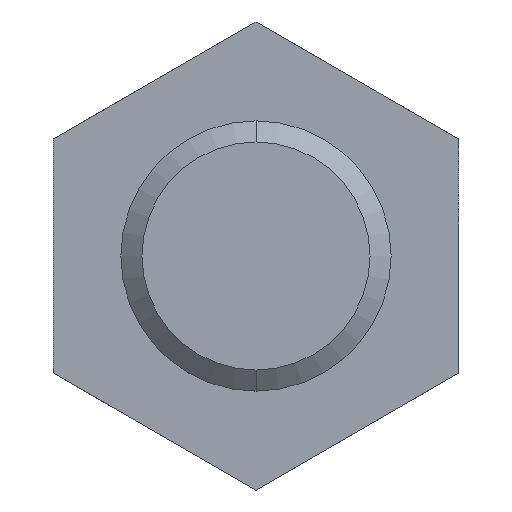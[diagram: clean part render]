
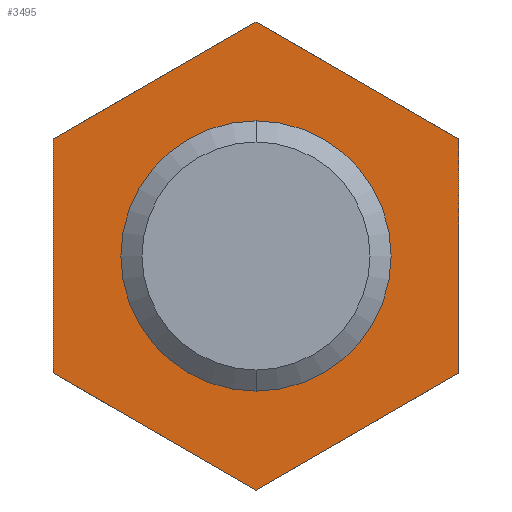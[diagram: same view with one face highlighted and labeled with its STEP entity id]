
A CAD part, front view. The second image highlights one B-rep face of the part: STEP entity #3495.
In plain terms, the highlighted planar face has unit normal (0, -1, 0).
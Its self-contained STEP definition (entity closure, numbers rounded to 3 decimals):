
#2574 = DIRECTION ( 'NONE',  ( 0., 0., -1. ) ) ;
#2575 = VECTOR ( 'NONE', #2574, 1000. ) ;
#2576 = CARTESIAN_POINT ( 'NONE',  ( -12., 50., 6.928 ) ) ;
#2581 = LINE ( 'NONE', #2576, #2575 ) ;
#2619 = DIRECTION ( 'NONE',  ( 0.866, 0., 0.5 ) ) ;
#2620 = VECTOR ( 'NONE', #2619, 1000. ) ;
#2621 = CARTESIAN_POINT ( 'NONE',  ( 0., 50., -13.856 ) ) ;
#2622 = LINE ( 'NONE', #2621, #2620 ) ;
#2623 = CARTESIAN_POINT ( 'NONE',  ( 12., 50., -6.928 ) ) ;
#2633 = CARTESIAN_POINT ( 'NONE',  ( -12., 50., -6.928 ) ) ;
#2673 = CARTESIAN_POINT ( 'NONE',  ( 0., 50., -13.856 ) ) ;
#2674 = DIRECTION ( 'NONE',  ( 0.866, 0., -0.5 ) ) ;
#2675 = VECTOR ( 'NONE', #2674, 1000. ) ;
#2676 = CARTESIAN_POINT ( 'NONE',  ( -12., 50., -6.928 ) ) ;
#2677 = LINE ( 'NONE', #2676, #2675 ) ;
#2912 = VERTEX_POINT ( 'NONE', #4935 ) ;
#2918 = VERTEX_POINT ( 'NONE', #4926 ) ;
#2919 = EDGE_CURVE ( 'NONE', #2918, #2920, #4925, .T. ) ;
#2920 = VERTEX_POINT ( 'NONE', #4921 ) ;
#2927 = EDGE_CURVE ( 'NONE', #6154, #2918, #4965, .T. ) ;
#2941 = EDGE_CURVE ( 'NONE', #2920, #2912, #4979, .T. ) ;
#3044 = VERTEX_POINT ( 'NONE', #5171 ) ;
#3237 = EDGE_CURVE ( 'NONE', #3238, #3044, #5549, .T. ) ;
#3238 = VERTEX_POINT ( 'NONE', #5544 ) ;
#3495 = ADVANCED_FACE ( 'NONE', ( #5941, #5937 ), #5936, .T. ) ;
#3496 = EDGE_LOOP ( 'NONE', ( #3497, #3498 ) ) ;
#3497 = ORIENTED_EDGE ( 'NONE', *, *, #3237, .T. ) ;
#3498 = ORIENTED_EDGE ( 'NONE', *, *, #3499, .T. ) ;
#3499 = EDGE_CURVE ( 'NONE', #3044, #3238, #5930, .T. ) ;
#3500 = EDGE_LOOP ( 'NONE', ( #3501, #3502, #3503, #3504, #3505, #3506 ) ) ;
#3501 = ORIENTED_EDGE ( 'NONE', *, *, #2919, .T. ) ;
#3502 = ORIENTED_EDGE ( 'NONE', *, *, #2941, .T. ) ;
#3503 = ORIENTED_EDGE ( 'NONE', *, *, #6145, .T. ) ;
#3504 = ORIENTED_EDGE ( 'NONE', *, *, #6178, .T. ) ;
#3505 = ORIENTED_EDGE ( 'NONE', *, *, #6155, .T. ) ;
#3506 = ORIENTED_EDGE ( 'NONE', *, *, #2927, .T. ) ;
#4921 = CARTESIAN_POINT ( 'NONE',  ( 0., 50., 13.856 ) ) ;
#4922 = DIRECTION ( 'NONE',  ( -0.866, 0., 0.5 ) ) ;
#4923 = VECTOR ( 'NONE', #4922, 1000. ) ;
#4924 = CARTESIAN_POINT ( 'NONE',  ( 12., 50., 6.928 ) ) ;
#4925 = LINE ( 'NONE', #4924, #4923 ) ;
#4926 = CARTESIAN_POINT ( 'NONE',  ( 12., 50., 6.928 ) ) ;
#4935 = CARTESIAN_POINT ( 'NONE',  ( -12., 50., 6.928 ) ) ;
#4962 = DIRECTION ( 'NONE',  ( 0., 0., 1. ) ) ;
#4963 = VECTOR ( 'NONE', #4962, 1000. ) ;
#4964 = CARTESIAN_POINT ( 'NONE',  ( 12., 50., -6.928 ) ) ;
#4965 = LINE ( 'NONE', #4964, #4963 ) ;
#4978 = CARTESIAN_POINT ( 'NONE',  ( 0., 50., 13.856 ) ) ;
#4979 = LINE ( 'NONE', #4978, #5028 ) ;
#5027 = DIRECTION ( 'NONE',  ( -0.866, 0., -0.5 ) ) ;
#5028 = VECTOR ( 'NONE', #5027, 1000. ) ;
#5171 = CARTESIAN_POINT ( 'NONE',  ( 8., 50., 0. ) ) ;
#5544 = CARTESIAN_POINT ( 'NONE',  ( -8., 50., 0. ) ) ;
#5545 = DIRECTION ( 'NONE',  ( -1., 0., 0. ) ) ;
#5546 = DIRECTION ( 'NONE',  ( 0., 1., 0. ) ) ;
#5547 = CARTESIAN_POINT ( 'NONE',  ( 0., 50., 0. ) ) ;
#5548 = AXIS2_PLACEMENT_3D ( 'NONE', #5547, #5546, #5545 ) ;
#5549 = CIRCLE ( 'NONE', #5548, 8. ) ;
#5927 = DIRECTION ( 'NONE',  ( -1., 0., 0. ) ) ;
#5928 = DIRECTION ( 'NONE',  ( 0., 1., 0. ) ) ;
#5929 = AXIS2_PLACEMENT_3D ( 'NONE', #5934, #5928, #5927 ) ;
#5930 = CIRCLE ( 'NONE', #5929, 8. ) ;
#5931 = DIRECTION ( 'NONE',  ( 1., 0., 0. ) ) ;
#5932 = DIRECTION ( 'NONE',  ( 0., -1., 0. ) ) ;
#5933 = CARTESIAN_POINT ( 'NONE',  ( -8., 50., 0. ) ) ;
#5934 = CARTESIAN_POINT ( 'NONE',  ( 0., 50., 0. ) ) ;
#5935 = AXIS2_PLACEMENT_3D ( 'NONE', #5933, #5932, #5931 ) ;
#5936 = PLANE ( 'NONE',  #5935 ) ;
#5937 = FACE_OUTER_BOUND ( 'NONE', #3500, .T. ) ;
#5941 = FACE_BOUND ( 'NONE', #3496, .T. ) ;
#6145 = EDGE_CURVE ( 'NONE', #2912, #6147, #2581, .T. ) ;
#6147 = VERTEX_POINT ( 'NONE', #2633 ) ;
#6154 = VERTEX_POINT ( 'NONE', #2623 ) ;
#6155 = EDGE_CURVE ( 'NONE', #6179, #6154, #2622, .T. ) ;
#6178 = EDGE_CURVE ( 'NONE', #6147, #6179, #2677, .T. ) ;
#6179 = VERTEX_POINT ( 'NONE', #2673 ) ;
